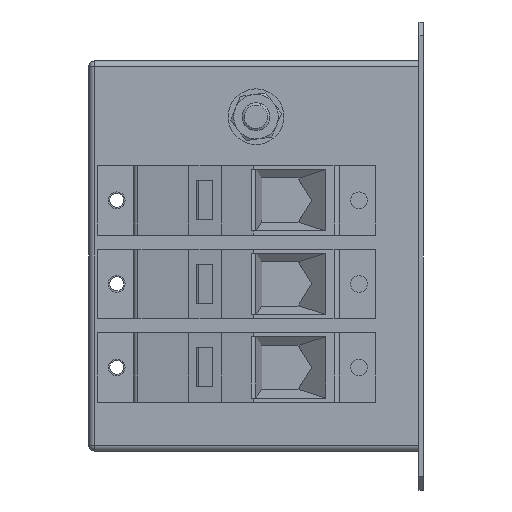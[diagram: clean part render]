
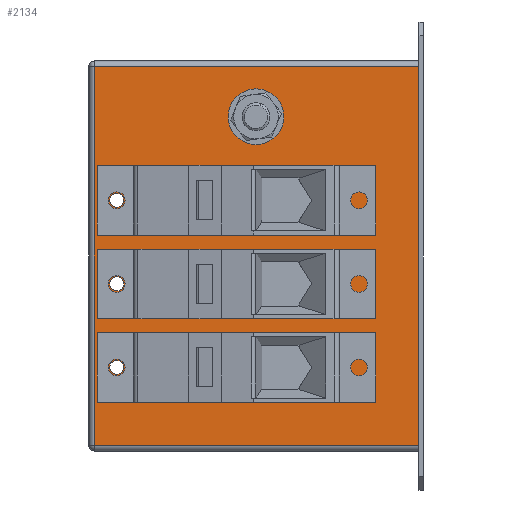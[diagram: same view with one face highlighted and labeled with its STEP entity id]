
A CAD part, left-side view. The second image highlights one B-rep face of the part: STEP entity #2134.
In plain terms, the highlighted planar face has unit normal (-1, 0, 0).
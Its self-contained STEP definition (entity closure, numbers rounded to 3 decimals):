
#101 = DIRECTION ( 'NONE',  ( 0., 0., -1. ) ) ;
#182 = DIRECTION ( 'NONE',  ( 0., 0., -1. ) ) ;
#344 = DIRECTION ( 'NONE',  ( 0., 0., -1. ) ) ;
#457 = EDGE_LOOP ( 'NONE', ( #1410, #2197 ) ) ;
#537 = CIRCLE ( 'NONE', #7152, 2.5 ) ;
#701 = DIRECTION ( 'NONE',  ( 0., 0., -1. ) ) ;
#722 = CIRCLE ( 'NONE', #2965, 2.5 ) ;
#776 = CARTESIAN_POINT ( 'NONE',  ( 0., 110., -64. ) ) ;
#787 = ORIENTED_EDGE ( 'NONE', *, *, #6370, .T. ) ;
#872 = DIRECTION ( 'NONE',  ( 0., 0., -1. ) ) ;
#874 = CIRCLE ( 'NONE', #7051, 2.5 ) ;
#1119 = EDGE_CURVE ( 'NONE', #6893, #2269, #537, .T. ) ;
#1231 = FACE_BOUND ( 'NONE', #1980, .T. ) ;
#1410 = ORIENTED_EDGE ( 'NONE', *, *, #4240, .T. ) ;
#1485 = CARTESIAN_POINT ( 'NONE',  ( 0., 1.5, -152. ) ) ;
#1491 = CARTESIAN_POINT ( 'NONE',  ( 0., 120., -16. ) ) ;
#1527 = LINE ( 'NONE', #5028, #6270 ) ;
#1606 = AXIS2_PLACEMENT_3D ( 'NONE', #7462, #2580, #344 ) ;
#1624 = DIRECTION ( 'NONE',  ( 1., 0., 0. ) ) ;
#1762 = LINE ( 'NONE', #1491, #9054 ) ;
#1798 = DIRECTION ( 'NONE',  ( 1., 0., 0. ) ) ;
#1836 = CARTESIAN_POINT ( 'NONE',  ( 0., 110., -94. ) ) ;
#1980 = EDGE_LOOP ( 'NONE', ( #2372, #9258 ) ) ;
#2076 = VERTEX_POINT ( 'NONE', #3360 ) ;
#2083 = ORIENTED_EDGE ( 'NONE', *, *, #7511, .T. ) ;
#2134 = ADVANCED_FACE ( 'NONE', ( #4707, #1231, #8504, #2906, #2655 ), #7425, .F. ) ;
#2197 = ORIENTED_EDGE ( 'NONE', *, *, #1119, .T. ) ;
#2244 = DIRECTION ( 'NONE',  ( 1., 0., 0. ) ) ;
#2269 = VERTEX_POINT ( 'NONE', #8541 ) ;
#2309 = DIRECTION ( 'NONE',  ( 0., 1., 0. ) ) ;
#2313 = ORIENTED_EDGE ( 'NONE', *, *, #5896, .T. ) ;
#2335 = CIRCLE ( 'NONE', #6700, 5.25 ) ;
#2372 = ORIENTED_EDGE ( 'NONE', *, *, #8463, .T. ) ;
#2459 = DIRECTION ( 'NONE',  ( 0., 0., 1. ) ) ;
#2580 = DIRECTION ( 'NONE',  ( 1., 0., 0. ) ) ;
#2655 = FACE_OUTER_BOUND ( 'NONE', #7802, .T. ) ;
#2746 = VERTEX_POINT ( 'NONE', #7612 ) ;
#2906 = FACE_BOUND ( 'NONE', #457, .T. ) ;
#2937 = DIRECTION ( 'NONE',  ( 0., 0., -1. ) ) ;
#2965 = AXIS2_PLACEMENT_3D ( 'NONE', #1836, #1798, #7650 ) ;
#2970 = VERTEX_POINT ( 'NONE', #9632 ) ;
#3011 = VERTEX_POINT ( 'NONE', #1485 ) ;
#3253 = DIRECTION ( 'NONE',  ( 0., 0., -1. ) ) ;
#3343 = DIRECTION ( 'NONE',  ( 1., 0., 0. ) ) ;
#3360 = CARTESIAN_POINT ( 'NONE',  ( 0., 1.5, -16. ) ) ;
#3465 = AXIS2_PLACEMENT_3D ( 'NONE', #5978, #6003, #182 ) ;
#3520 = VERTEX_POINT ( 'NONE', #6212 ) ;
#3715 = CIRCLE ( 'NONE', #8518, 2.5 ) ;
#3799 = CARTESIAN_POINT ( 'NONE',  ( 0., 110., -124. ) ) ;
#3839 = AXIS2_PLACEMENT_3D ( 'NONE', #4137, #1624, #872 ) ;
#3876 = CARTESIAN_POINT ( 'NONE',  ( 0., 110., -64. ) ) ;
#3928 = VERTEX_POINT ( 'NONE', #4244 ) ;
#4137 = CARTESIAN_POINT ( 'NONE',  ( 0., 60., -34. ) ) ;
#4155 = VERTEX_POINT ( 'NONE', #7396 ) ;
#4240 = EDGE_CURVE ( 'NONE', #2269, #6893, #9116, .T. ) ;
#4244 = CARTESIAN_POINT ( 'NONE',  ( 0., 110., -66.5 ) ) ;
#4284 = ORIENTED_EDGE ( 'NONE', *, *, #5095, .T. ) ;
#4293 = DIRECTION ( 'NONE',  ( 0., -1., 0. ) ) ;
#4707 = FACE_BOUND ( 'NONE', #5718, .T. ) ;
#4752 = CARTESIAN_POINT ( 'NONE',  ( 0., 118., -152. ) ) ;
#4865 = ORIENTED_EDGE ( 'NONE', *, *, #7408, .T. ) ;
#4934 = AXIS2_PLACEMENT_3D ( 'NONE', #3876, #10317, #2937 ) ;
#5028 = CARTESIAN_POINT ( 'NONE',  ( 0., 120., -152. ) ) ;
#5095 = EDGE_CURVE ( 'NONE', #2746, #2970, #2335, .T. ) ;
#5233 = CARTESIAN_POINT ( 'NONE',  ( 0., 110., -96.5 ) ) ;
#5283 = EDGE_CURVE ( 'NONE', #4155, #6765, #5599, .T. ) ;
#5599 = LINE ( 'NONE', #9904, #9570 ) ;
#5718 = EDGE_LOOP ( 'NONE', ( #4284, #787 ) ) ;
#5773 = CARTESIAN_POINT ( 'NONE',  ( 0., 60., -34. ) ) ;
#5896 = EDGE_CURVE ( 'NONE', #3011, #2076, #8178, .T. ) ;
#5978 = CARTESIAN_POINT ( 'NONE',  ( 0., 110., -124. ) ) ;
#6003 = DIRECTION ( 'NONE',  ( 1., 0., 0. ) ) ;
#6029 = VECTOR ( 'NONE', #2459, 1000. ) ;
#6212 = CARTESIAN_POINT ( 'NONE',  ( 0., 110., -61.5 ) ) ;
#6262 = VERTEX_POINT ( 'NONE', #9495 ) ;
#6270 = VECTOR ( 'NONE', #4293, 1000. ) ;
#6319 = DIRECTION ( 'NONE',  ( 1., 0., 0. ) ) ;
#6370 = EDGE_CURVE ( 'NONE', #2970, #2746, #9475, .T. ) ;
#6508 = DIRECTION ( 'NONE',  ( 1., 0., 0. ) ) ;
#6609 = CARTESIAN_POINT ( 'NONE',  ( 0., 1.5, -154. ) ) ;
#6629 = CIRCLE ( 'NONE', #4934, 2.5 ) ;
#6700 = AXIS2_PLACEMENT_3D ( 'NONE', #5773, #3343, #701 ) ;
#6765 = VERTEX_POINT ( 'NONE', #4752 ) ;
#6893 = VERTEX_POINT ( 'NONE', #10519 ) ;
#6930 = EDGE_CURVE ( 'NONE', #3520, #3928, #3715, .T. ) ;
#6996 = EDGE_CURVE ( 'NONE', #6765, #3011, #1527, .T. ) ;
#7051 = AXIS2_PLACEMENT_3D ( 'NONE', #7146, #2244, #7919 ) ;
#7146 = CARTESIAN_POINT ( 'NONE',  ( 0., 110., -94. ) ) ;
#7152 = AXIS2_PLACEMENT_3D ( 'NONE', #3799, #6319, #9500 ) ;
#7224 = VERTEX_POINT ( 'NONE', #5233 ) ;
#7396 = CARTESIAN_POINT ( 'NONE',  ( 0., 118., -16. ) ) ;
#7408 = EDGE_CURVE ( 'NONE', #2076, #4155, #1762, .T. ) ;
#7425 = PLANE ( 'NONE',  #1606 ) ;
#7462 = CARTESIAN_POINT ( 'NONE',  ( 0., 120., -154. ) ) ;
#7511 = EDGE_CURVE ( 'NONE', #7224, #6262, #874, .T. ) ;
#7612 = CARTESIAN_POINT ( 'NONE',  ( 0., 60., -39.25 ) ) ;
#7650 = DIRECTION ( 'NONE',  ( 0., 0., -1. ) ) ;
#7802 = EDGE_LOOP ( 'NONE', ( #8172, #10143, #2313, #4865 ) ) ;
#7919 = DIRECTION ( 'NONE',  ( 0., 0., -1. ) ) ;
#8172 = ORIENTED_EDGE ( 'NONE', *, *, #5283, .T. ) ;
#8178 = LINE ( 'NONE', #6609, #6029 ) ;
#8353 = ORIENTED_EDGE ( 'NONE', *, *, #10093, .T. ) ;
#8463 = EDGE_CURVE ( 'NONE', #3928, #3520, #6629, .T. ) ;
#8504 = FACE_BOUND ( 'NONE', #10522, .T. ) ;
#8518 = AXIS2_PLACEMENT_3D ( 'NONE', #776, #6508, #3253 ) ;
#8541 = CARTESIAN_POINT ( 'NONE',  ( 0., 110., -126.5 ) ) ;
#9054 = VECTOR ( 'NONE', #2309, 1000. ) ;
#9116 = CIRCLE ( 'NONE', #3465, 2.5 ) ;
#9258 = ORIENTED_EDGE ( 'NONE', *, *, #6930, .T. ) ;
#9475 = CIRCLE ( 'NONE', #3839, 5.25 ) ;
#9495 = CARTESIAN_POINT ( 'NONE',  ( 0., 110., -91.5 ) ) ;
#9500 = DIRECTION ( 'NONE',  ( 0., 0., -1. ) ) ;
#9570 = VECTOR ( 'NONE', #101, 1000. ) ;
#9632 = CARTESIAN_POINT ( 'NONE',  ( 0., 60., -28.75 ) ) ;
#9904 = CARTESIAN_POINT ( 'NONE',  ( 0., 118., -154. ) ) ;
#10093 = EDGE_CURVE ( 'NONE', #6262, #7224, #722, .T. ) ;
#10143 = ORIENTED_EDGE ( 'NONE', *, *, #6996, .T. ) ;
#10317 = DIRECTION ( 'NONE',  ( 1., 0., 0. ) ) ;
#10519 = CARTESIAN_POINT ( 'NONE',  ( 0., 110., -121.5 ) ) ;
#10522 = EDGE_LOOP ( 'NONE', ( #2083, #8353 ) ) ;
